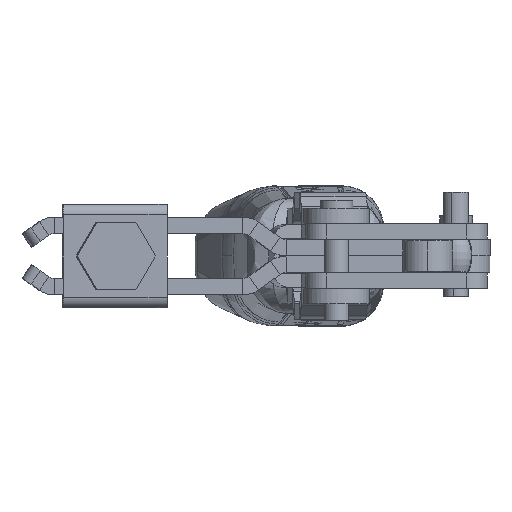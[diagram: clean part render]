
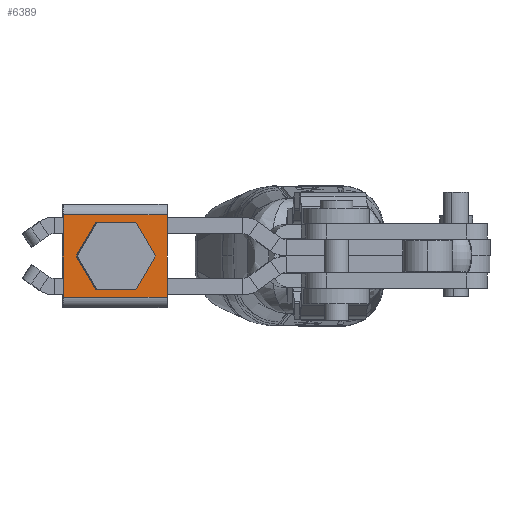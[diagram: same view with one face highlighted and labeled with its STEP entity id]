
A CAD part, front view. The second image highlights one B-rep face of the part: STEP entity #6389.
In plain terms, the highlighted planar face has unit normal (0.009, -1, 0) as drawn and (0, 1, 0) by its records, which use the part's own axes.
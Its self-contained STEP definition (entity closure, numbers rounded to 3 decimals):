
#306 = AXIS2_PLACEMENT_3D ( 'NONE', #14858, #4335, #16672 ) ;
#925 = VERTEX_POINT ( 'NONE', #17588 ) ;
#1264 = DIRECTION ( 'NONE',  ( 1., 0., 0. ) ) ;
#1603 = CARTESIAN_POINT ( 'NONE',  ( -10., 7., 10. ) ) ;
#1688 = DIRECTION ( 'NONE',  ( 0., 0., -1. ) ) ;
#1737 = ORIENTED_EDGE ( 'NONE', *, *, #12987, .F. ) ;
#1743 = LINE ( 'NONE', #19975, #6491 ) ;
#2119 = CARTESIAN_POINT ( 'NONE',  ( 0., 7., 4.25 ) ) ;
#2605 = VECTOR ( 'NONE', #1264, 1000. ) ;
#3213 = VERTEX_POINT ( 'NONE', #14408 ) ;
#3377 = VECTOR ( 'NONE', #1688, 1000. ) ;
#3434 = CARTESIAN_POINT ( 'NONE',  ( 0., 7., 0. ) ) ;
#4335 = DIRECTION ( 'NONE',  ( 0., 1., 0. ) ) ;
#5242 = DIRECTION ( 'NONE',  ( 0., 0., 1. ) ) ;
#6011 = CIRCLE ( 'NONE', #306, 4.25 ) ;
#6273 = EDGE_CURVE ( 'NONE', #6805, #14224, #16166, .T. ) ;
#6389 = ADVANCED_FACE ( 'NONE', ( #10445, #15016 ), #18136, .T. ) ;
#6491 = VECTOR ( 'NONE', #21656, 1000. ) ;
#6805 = VERTEX_POINT ( 'NONE', #11149 ) ;
#8286 = DIRECTION ( 'NONE',  ( 1., 0., 0. ) ) ;
#9856 = VERTEX_POINT ( 'NONE', #2119 ) ;
#10445 = FACE_BOUND ( 'NONE', #15214, .T. ) ;
#11149 = CARTESIAN_POINT ( 'NONE',  ( -7.9, 7., 10. ) ) ;
#11226 = CARTESIAN_POINT ( 'NONE',  ( 0., 7., -4.25 ) ) ;
#11498 = ORIENTED_EDGE ( 'NONE', *, *, #15515, .F. ) ;
#11725 = LINE ( 'NONE', #14427, #3377 ) ;
#12987 = EDGE_CURVE ( 'NONE', #15408, #9856, #6011, .T. ) ;
#13368 = ORIENTED_EDGE ( 'NONE', *, *, #16109, .T. ) ;
#13540 = CARTESIAN_POINT ( 'NONE',  ( 7.9, 7., 10. ) ) ;
#14011 = EDGE_LOOP ( 'NONE', ( #22446, #11498, #18263, #13368 ) ) ;
#14224 = VERTEX_POINT ( 'NONE', #13540 ) ;
#14254 = ORIENTED_EDGE ( 'NONE', *, *, #16515, .F. ) ;
#14408 = CARTESIAN_POINT ( 'NONE',  ( -7.9, 7., -10. ) ) ;
#14427 = CARTESIAN_POINT ( 'NONE',  ( 7.9, 7., 10. ) ) ;
#14451 = VECTOR ( 'NONE', #8286, 1000. ) ;
#14655 = EDGE_CURVE ( 'NONE', #3213, #925, #19055, .T. ) ;
#14858 = CARTESIAN_POINT ( 'NONE',  ( 0., 7., 0. ) ) ;
#14934 = CIRCLE ( 'NONE', #19539, 4.25 ) ;
#15016 = FACE_OUTER_BOUND ( 'NONE', #14011, .T. ) ;
#15202 = CARTESIAN_POINT ( 'NONE',  ( -10., 7., -10. ) ) ;
#15214 = EDGE_LOOP ( 'NONE', ( #14254, #1737 ) ) ;
#15408 = VERTEX_POINT ( 'NONE', #11226 ) ;
#15515 = EDGE_CURVE ( 'NONE', #6805, #3213, #1743, .T. ) ;
#15780 = DIRECTION ( 'NONE',  ( 0., 1., 0. ) ) ;
#16109 = EDGE_CURVE ( 'NONE', #14224, #925, #11725, .T. ) ;
#16166 = LINE ( 'NONE', #1603, #2605 ) ;
#16276 = DIRECTION ( 'NONE',  ( 0., 1., 0. ) ) ;
#16428 = CARTESIAN_POINT ( 'NONE',  ( -10., 7., 10. ) ) ;
#16515 = EDGE_CURVE ( 'NONE', #9856, #15408, #14934, .T. ) ;
#16672 = DIRECTION ( 'NONE',  ( 0., 0., 1. ) ) ;
#17588 = CARTESIAN_POINT ( 'NONE',  ( 7.9, 7., -10. ) ) ;
#18136 = PLANE ( 'NONE',  #20703 ) ;
#18263 = ORIENTED_EDGE ( 'NONE', *, *, #6273, .T. ) ;
#19055 = LINE ( 'NONE', #15202, #14451 ) ;
#19539 = AXIS2_PLACEMENT_3D ( 'NONE', #3434, #15780, #5242 ) ;
#19797 = DIRECTION ( 'NONE',  ( 0., 0., 1. ) ) ;
#19975 = CARTESIAN_POINT ( 'NONE',  ( -7.9, 7., 10. ) ) ;
#20703 = AXIS2_PLACEMENT_3D ( 'NONE', #16428, #16276, #19797 ) ;
#21656 = DIRECTION ( 'NONE',  ( 0., 0., -1. ) ) ;
#22446 = ORIENTED_EDGE ( 'NONE', *, *, #14655, .F. ) ;
